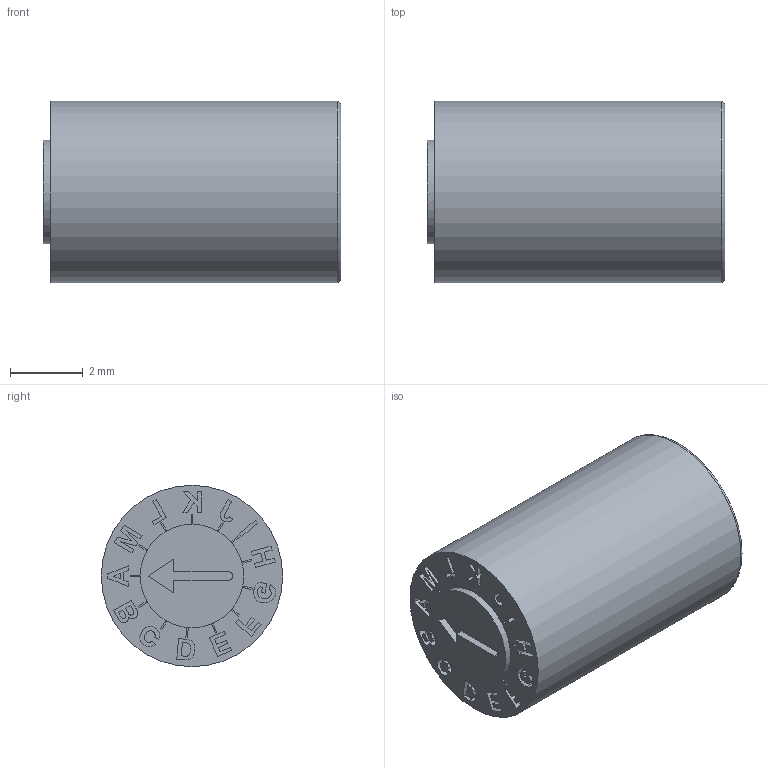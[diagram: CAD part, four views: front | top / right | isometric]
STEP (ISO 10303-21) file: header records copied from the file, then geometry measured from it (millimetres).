
FILE_DESCRIPTION( ( 'STEP AP203' ), ' ' );
FILE_NAME( 'p:/temp/worker_131/3720_3968/app_90_12017012510045506415321260eae72_000000_00_00_000000/format_0/FAM0005(0.2).stp', '2017-01-25T09:04:55', ( '' ), ( '' ), ' ', 'PARTsolutions', ' ' );
FILE_SCHEMA( ( 'CONFIG_CONTROL_DESIGN' ) );
Length unit declared in the file: millimetre
Products named in the file (3): FAM0005(0.2); _FAM0005(0.2)1; _FAM0005(0.2)2
Assembly tree (2 placements, depth 2):
  FAM0005(0.2)
    _FAM0005(0.2)1
    _FAM0005(0.2)2
Bounding box: 8.2 x 5 x 5 mm (x, y, z)
Volume: 133.4 mm3; surface area: 291.2 mm2
Topology: 2 solids, 2 shells, 249 faces, 632 edges, 420 vertices
Faces by surface type: plane 206, cylinder 39, cone 3, torus 1
Full cylindrical faces by diameter (mm): 1.383 x1, 1.6 x1, 2.85 x2, 5 x1
Entity records: 7483 total; most frequent: CARTESIAN_POINT 1295, ORIENTED_EDGE 1246, DIRECTION 1209, EDGE_CURVE 623, LINE 541, VECTOR 541, VERTEX_POINT 420, AXIS2_PLACEMENT_3D 334
